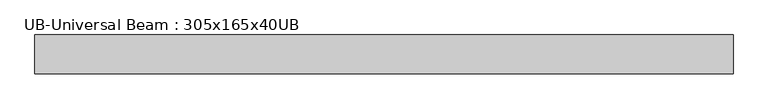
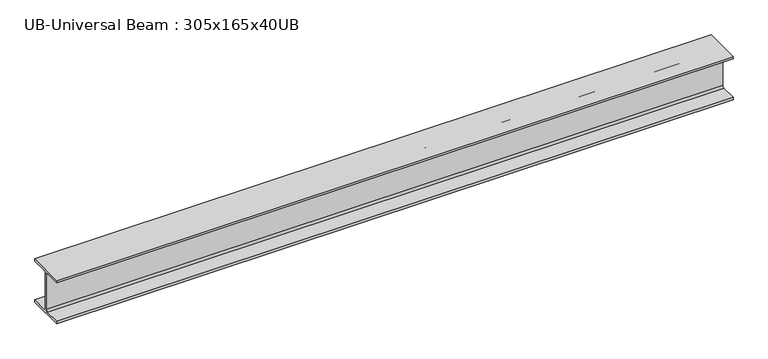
"""IFC4 building model written with IfcOpenShell, lengths in millimetres: beam geometry, UB-Universal Beam : 305x165x40UB."""

from ifc_helpers import new_model, si_unit, point, frame, frame_2d, origin, place, context, project, spatial, polyline, circle_curve, trimmed, segment, composite_curve, outline, extrude, source, transform, mapped, element, save


def ub_universal_beam_305x165x40ub_c0777d3c(model_context):
    return source(origin(), model_context, "Body", "SweptSolid", [
        extrude(outline(composite_curve([segment(polyline([(82.5, -89.8), (82.5, -100.0), (-82.5, -100.0), (-82.5, -89.8), (-11.9, -89.8)]), True, "CONTINUOUS"), segment(trimmed(circle_curve(frame_2d((-11.9, -80.9)), 8.9), [point((-11.9, -89.8))], [point((-3.0, -80.9))], True, "CARTESIAN"), True, "CONTINUOUS"), segment(polyline([(-3.0, -80.9), (-3.0, 80.9)]), True, "CONTINUOUS"), segment(trimmed(circle_curve(frame_2d((-11.9, 80.9)), 8.9), [point((-3.0, 80.9))], [point((-11.9, 89.8))], True, "CARTESIAN"), True, "CONTINUOUS"), segment(polyline([(-11.9, 89.8), (-82.5, 89.8), (-82.5, 100.0), (82.5, 100.0), (82.5, 89.8), (11.9, 89.8)]), True, "CONTINUOUS"), segment(trimmed(circle_curve(frame_2d((11.9, 80.9)), 8.9), [point((11.9, 89.8))], [point((3.0, 80.9))], True, "CARTESIAN"), True, "CONTINUOUS"), segment(polyline([(3.0, 80.9), (3.0, -80.9)]), True, "CONTINUOUS"), segment(trimmed(circle_curve(frame_2d((11.9, -80.9)), 8.9), [point((3.0, -80.9))], [point((11.9, -89.8))], True, "CARTESIAN"), True, "CONTINUOUS"), segment(polyline([(11.9, -89.8), (82.5, -89.8)]), True, "CONTINUOUS")], self_intersect=False)), frame((-1482.3751132, 0.0, 0.0), z_axis=(1.0, 0.0, 0.0), x_axis=(0.0, 1.0, 0.0)), (0.0, 0.0, 1.0), 2964.7502264),
    ])


if __name__ == "__main__":
    model = new_model("IFC4")
    model_context = context("Model", 3, world=origin())
    ifc_project = project(units=[si_unit("LENGTHUNIT", "METRE", prefix="MILLI")], contexts=[model_context])
    site = spatial("IfcSite", under=ifc_project)
    building = spatial("IfcBuilding", under=site)
    placement = place(None, origin())
    ub_universal_beam_305x165x40ub_shape = ub_universal_beam_305x165x40ub_c0777d3c(model_context)
    element("IfcBeam", 1, ObjectType="UB-Universal Beam : 305x165x40UB", at=placement, inside=building, context=model_context, shape_type="MappedRepresentation", body=[
        mapped(ub_universal_beam_305x165x40ub_shape, transform((0.0, 0.0, 0.0), x_axis=(1.0, 0.0, 0.0), y_axis=(0.0, 1.0, 0.0), z_axis=(0.0, 0.0, 1.0))),
    ])
    save(model, "model.ifc")
